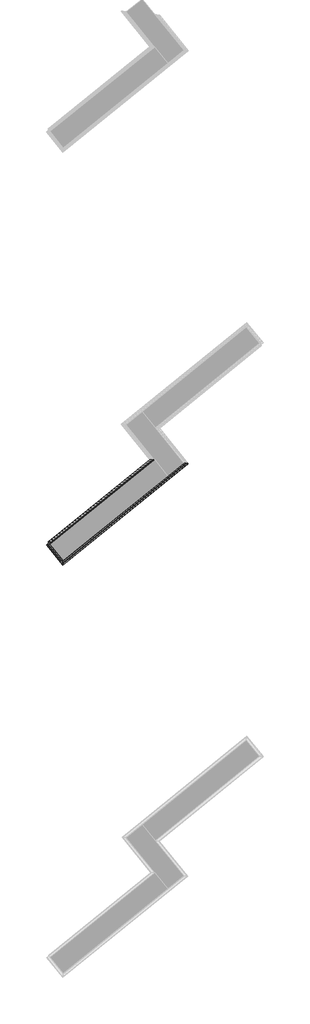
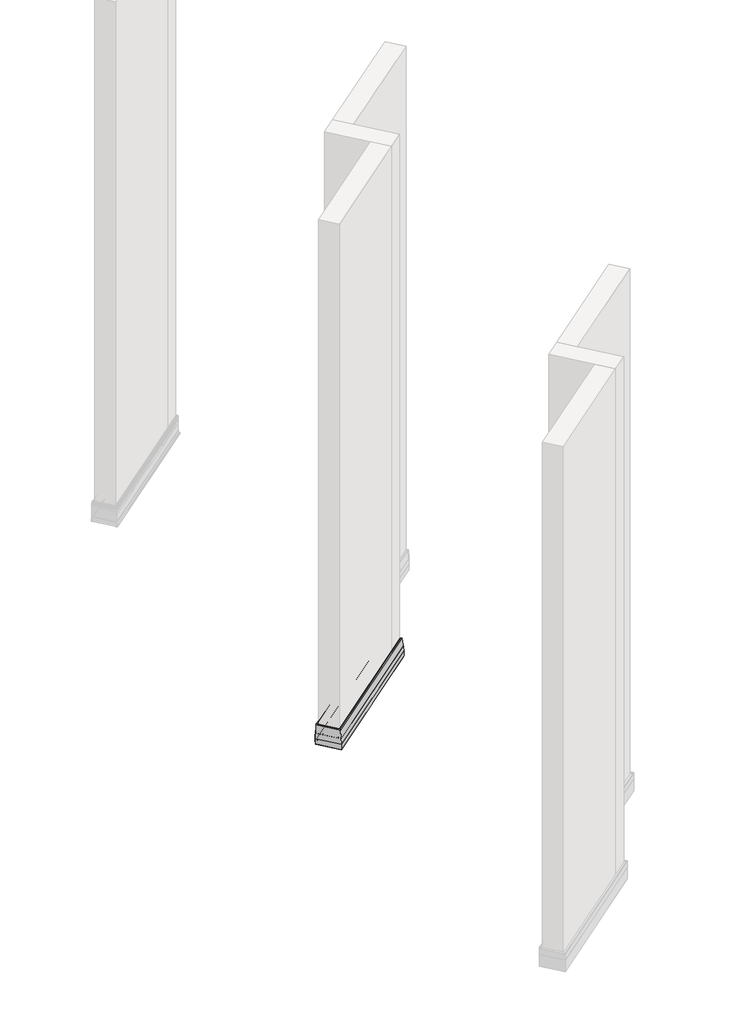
# One storey, part 14 of 21: 2 proxies.
"""IFC4 building model written with IfcOpenShell, lengths in millimetres."""

from ifc_helpers import new_model, si_unit, frame, origin, place, context, project, spatial, polyline, circle_curve, ellipse_curve, element, save
from ifc_brep_helpers import plane_surface, cylinder_surface, revolved_surface, advanced_brep

model = new_model("IFC4")

# Units and contexts
model_context = context("Model", 3, world=origin())
ifc_project = project(units=[si_unit("LENGTHUNIT", "METRE", prefix="MILLI")], contexts=[model_context])

# Site, building, storey
site = spatial("IfcSite", under=ifc_project)
building = spatial("IfcBuilding", under=site)
storey = spatial("IfcBuildingStorey", under=building, Name="Izofleks 2D View", Elevation=0.0)

# Proxies
placement = place(None, origin())
element("IfcBuildingElementProxy", 1, Name="Wall Sweeps", at=placement, inside=storey, context=model_context, shape_type="AdvancedBrep", body=[
    advanced_brep(
    [(10237.4382256, -5345.7772713, 59.6555585), (10245.436706, -5346.6179455, 59.6555585), (10236.6776445, -5345.697331, 101.9914791), (10233.4646178, -5345.3596283, 103.6588452), (10231.0336692, -5345.1041253, 103.6588452), (10231.0336692, -5345.1041253, 101.6586119), (10226.3923302, -5344.6163009, 101.6586119), (10226.3923302, -5344.6163009, 102.9586119), (10229.2052629, -5344.9119521, 102.9586119), (10229.2052629, -5344.9119521, 104.9585348), (10233.6477678, -5345.3788781, 104.9585348), (10238.5871533, -5345.8980285, 101.8554536), (10248.892447, -5346.9811585, 31.5183531), (10248.892447, -5346.9811585, 3.1913868), (10244.6763928, -5346.5380333, 3.1913868), (10244.6763928, -5346.5380333, 0.1913868), (10242.8479865, -5346.3458601, 0.1913868), (10242.8479865, -5346.3458601, 4.4913868), (10247.0899552, -5346.791709, 4.4913868), (10247.0899552, -5346.791709, 28.7657538), (10234.0080145, -5345.4167416, 28.7657538), (10233.7384472, -5345.3884089, 27.7479135), (10235.1018647, -5345.5317099, 27.7479135), (10235.7871142, -5345.6037325, 27.1399853), (10233.0387933, -5345.3148723, 18.30079), (10235.3427515, -5345.5570281, 18.30079), (10235.3488299, -5345.557667, 16.99999), (10228.316906, -5344.818582, 16.99999), (10228.316906, -5344.818582, 0.0), (10226.4885138, -5344.6264102, 0.0), (10226.4885138, -5344.6264102, 54.99999), (10228.316906, -5344.818582, 53.99999), (10228.316906, -5344.818582, 47.88979), (10232.5247381, -5345.260843, 47.88979), (10231.5749146, -5345.1610125, 48.3626585), (10230.421833, -5345.0398187, 48.3626585), (10229.7258942, -5344.9666726, 48.9497419), (10232.4134293, -5345.2491439, 59.2434073), (10233.6565501, -5345.3798012, 59.6555585), (9568.9056738, -5736.7119346, 59.6555585), (9570.9952466, -5735.0198319, 59.6555585), (9571.6821356, -5734.4636002, 59.2434073), (9573.1671388, -5733.2610683, 48.9497419), (9572.7825964, -5733.5724646, 48.3626585), (9572.1454587, -5734.0884085, 48.3626585), (9571.6206317, -5734.513405, 47.88979), (9573.9456782, -5732.6306195, 47.88979), (9573.9456782, -5732.6306195, 53.99999), (9574.9559602, -5731.8125092, 54.99999), (9574.9559602, -5731.8125092, 0.0), (9573.9456782, -5732.6306195, 0.0), (9573.9456782, -5732.6306195, 16.99999), (9570.0601738, -5735.7770389, 16.99999), (9570.0635324, -5735.7743192, 18.30079), (9571.3365894, -5734.7434179, 18.30079), (9569.8179989, -5735.9731483, 27.1399853), (9570.1966349, -5735.6665349, 27.7479135), (9570.9499942, -5735.0564766, 27.7479135), (9570.8010442, -5735.1770939, 28.7657538), (9563.5725902, -5741.0305806, 28.7657538), (9563.5725902, -5741.0305806, 4.4913868), (9565.9164989, -5739.1325207, 4.4913868), (9565.9164989, -5739.1325207, 0.1913868), (9564.9062092, -5739.9506372, 0.1913868), (9564.9062092, -5739.9506372, 3.1913868), (9562.5766195, -5741.8371017, 3.1913868), (9562.5766195, -5741.8371017, 31.5183531), (9568.2708313, -5737.2260199, 101.8554536), (9571.0000992, -5735.0159023, 104.9585348), (9573.4548148, -5733.0281129, 104.9585348), (9573.4548148, -5733.0281129, 102.9586119), (9575.0091067, -5731.7694721, 102.9586119), (9575.0091067, -5731.7694721, 101.6586119), (9572.444525, -5733.8462294, 101.6586119), (9572.444525, -5733.8462294, 103.6588452), (9571.1012992, -5734.9339522, 103.6588452), (9569.3259345, -5736.3716142, 101.9914791), (9564.4860965, -5740.2908377, 59.6555585), (9642.4781816, -5827.5664153, 59.6555585), (9641.6375074, -5835.5648957, 59.6555585), (9642.5581219, -5826.8058342, 101.9914791), (9642.8958246, -5823.5928076, 103.6588452), (9643.1513276, -5821.1618589, 103.6588452), (9643.1513276, -5821.1618589, 101.6586119), (9643.639152, -5816.5205199, 101.6586119), (9643.639152, -5816.5205199, 102.9586119), (9643.3435009, -5819.3334526, 102.9586119), (9643.3435009, -5819.3334526, 104.9585348), (9642.8765748, -5823.7759576, 104.9585348), (9642.3574244, -5828.7153431, 101.8554536), (9641.2742944, -5839.0206367, 31.5183531), (9641.2742944, -5839.0206367, 3.1913868), (9641.7174196, -5834.8045825, 3.1913868), (9641.7174196, -5834.8045825, 0.1913868), (9641.9095928, -5832.9761762, 0.1913868), (9641.9095928, -5832.9761762, 4.4913868), (9641.463744, -5837.2181449, 4.4913868), (9641.463744, -5837.2181449, 28.7657538), (9642.8387113, -5824.1362042, 28.7657538), (9642.867044, -5823.8666369, 27.7479135), (9642.723743, -5825.2300544, 27.7479135), (9642.6517204, -5825.9153039, 27.1399853), (9642.9405806, -5823.166983, 18.30079), (9642.6984248, -5825.4709412, 18.30079), (9642.6977859, -5825.4770196, 16.99999), (9643.4368709, -5818.4450957, 16.99999), (9643.4368709, -5818.4450957, 0.0), (9643.6290427, -5816.6167035, 0.0), (10148.7739176, -5407.5584493, 0.0), (9643.6290427, -5816.6167035, 54.99999), (9643.4368709, -5818.4450957, 53.99999), (9643.4368709, -5818.4450957, 47.88979), (9642.9946099, -5822.6529279, 47.88979), (9643.0944404, -5821.7031044, 48.3626585), (9643.2156342, -5820.5500227, 48.3626585), (9643.2887803, -5819.854084, 48.9497419), (9643.006309, -5822.541619, 59.2434073), (9642.8756517, -5823.7847399, 59.6555585), (9580.6970036, -5738.9021074, 0.0)],
    [
        (0, 1),
        (1, 2, ellipse_curve(frame((9771.4200218, -5296.7967844, 31.7042015), z_axis=(-0.10452846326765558, -0.9945218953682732, 0.0), x_axis=(-0.9945218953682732, 0.10452846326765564, 0.0)), 478.2640711, 338.1837679)),
        (2, 3, ellipse_curve(frame((10233.5362149, -5345.3671535, 101.3299275), z_axis=(-0.10452846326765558, -0.9945218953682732, 0.0), x_axis=(-0.9945218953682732, 0.10452846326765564, 0.0)), 3.2943737, 2.329474)),
        (3, 4),
        (4, 5),
        (5, 6),
        (6, 7),
        (7, 8),
        (8, 9),
        (9, 10),
        (10, 11, ellipse_curve(frame((10233.1567825, -5345.3272735, 101.0246073), z_axis=(0.10452846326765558, 0.9945218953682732, 0.0), x_axis=(0.9945218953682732, -0.1045284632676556, 0.0)), 5.5852753, 3.949386)),
        (11, 12, ellipse_curve(frame((9771.4200218, -5296.7967844, 31.7042015), z_axis=(0.10452846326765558, 0.9945218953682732, 0.0), x_axis=(0.9945218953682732, -0.10452846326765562, 0.0)), 480.1025487, 339.4837679)),
        (12, 13),
        (13, 14),
        (14, 15),
        (15, 16),
        (16, 17),
        (17, 18),
        (18, 19),
        (19, 20),
        (20, 21),
        (21, 22),
        (22, 23, ellipse_curve(frame((10235.1004582, -5345.5315621, 27.2479135), z_axis=(0.10452846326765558, 0.9945218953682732, 0.0), x_axis=(0.9945218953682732, -0.10452846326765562, 0.0)), 0.7071082, 0.500001)),
        (23, 24),
        (24, 25),
        (25, 26, ellipse_curve(frame((10235.1785737, -5345.5397723, 17.649995), z_axis=(0.10452846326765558, 0.9945218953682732, 0.0), x_axis=(0.9945218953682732, -0.10452846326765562, 0.0)), 0.935051, 0.6611809)),
        (26, 27),
        (27, 28),
        (28, 29),
        (29, 30),
        (30, 31, ellipse_curve(frame((10226.8389918, -5344.663247, 53.9789482), z_axis=(0.10452846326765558, 0.9945218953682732, 0.0), x_axis=(0.9945218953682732, -0.10452846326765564, 0.0)), 1.4863528, 1.0510102)),
        (31, 32),
        (32, 33),
        (33, 34),
        (34, 35),
        (35, 36, ellipse_curve(frame((10230.4183879, -5345.0394566, 48.8626585), z_axis=(0.10452846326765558, 0.9945218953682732, 0.0), x_axis=(0.9945218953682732, -0.10452846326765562, 0.0)), 0.7071153, 0.500006)),
        (36, 37),
        (37, 38, ellipse_curve(frame((10233.6790275, -5345.3821637, 58.4674875), z_axis=(0.10452846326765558, 0.9945218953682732, 0.0), x_axis=(0.9945218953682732, -0.10452846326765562, 0.0)), 1.6803381, 1.1881785)),
        (38, 0),
        (39, 40),
        (40, 41, circle_curve(frame((9570.9828266, -5735.0298894, 58.4674875), z_axis=(-0.629320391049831, 0.7771459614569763, 0.0), x_axis=(-0.7771459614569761, -0.6293203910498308, 0.0)), 1.1881785)),
        (41, 42),
        (42, 43, circle_curve(frame((9572.7845, -5733.5709231, 48.8626585), z_axis=(-0.629320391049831, 0.7771459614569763, 0.0), x_axis=(-0.0038071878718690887, -0.003082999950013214, -0.9999880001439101)), 0.500006)),
        (43, 44),
        (44, 45),
        (45, 46),
        (46, 47),
        (47, 48, circle_curve(frame((9574.7623028, -5731.9693299, 53.9789482), z_axis=(-0.629320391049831, 0.777145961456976, 0.0), x_axis=(0.18425834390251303, 0.1492094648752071, 0.9714861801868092)), 1.0510102)),
        (48, 49),
        (49, 50),
        (50, 51),
        (51, 52),
        (52, 53, circle_curve(frame((9570.1542492, -5735.7008582, 17.649995), z_axis=(-0.629320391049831, 0.7771459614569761, 0.0), x_axis=(-0.14228387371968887, -0.11521920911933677, 0.9830970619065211)), 0.6611809)),
        (53, 54),
        (54, 55),
        (55, 56, circle_curve(frame((9570.1974121, -5735.6659056, 27.2479135), z_axis=(-0.629320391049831, 0.7771459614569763, 0.0), x_axis=(-0.001554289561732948, -0.001258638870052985, 0.9999980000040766)), 0.500001)),
        (56, 57),
        (57, 58),
        (58, 59),
        (59, 60),
        (60, 61),
        (61, 62),
        (62, 63),
        (63, 64),
        (64, 65),
        (65, 66),
        (66, 67, circle_curve(frame((9826.4050191, -5528.1930762, 31.7042015), z_axis=(-0.629320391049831, 0.7771459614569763, 0.0), x_axis=(-0.7603726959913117, -0.6157376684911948, 0.20664096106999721)), 339.4837679)),
        (67, 68, circle_curve(frame((9571.2713943, -5734.7962119, 101.0246073), z_axis=(-0.6293203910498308, 0.7771459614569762, 0.0), x_axis=(-0.0686929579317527, -0.05562646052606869, 0.9960858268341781)), 3.949386)),
        (68, 69),
        (69, 70),
        (70, 71),
        (71, 72),
        (72, 73),
        (73, 74),
        (74, 75),
        (75, 76, circle_curve(frame((9571.0617381, -5734.9659882, 101.3299275), z_axis=(0.629320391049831, -0.7771459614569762, 0.0), x_axis=(-0.7451482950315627, -0.6034091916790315, 0.28399184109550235)), 2.329474)),
        (76, 77, circle_curve(frame((9826.4050191, -5528.1930762, 31.7042015), z_axis=(0.6293203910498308, -0.7771459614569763, 0.0), x_axis=(-0.7744869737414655, -0.6271671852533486, 0.08265137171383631)), 338.1837679)),
        (77, 39),
        (0, 78),
        (78, 79),
        (79, 1),
        (79, 80, ellipse_curve(frame((9691.4586685, -5361.5482115, 31.7042015), z_axis=(-0.9945218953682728, 0.10452846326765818, 0.0), x_axis=(-0.10452846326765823, -0.9945218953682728, 0.0)), 478.2640711, 338.1837679)),
        (80, 2),
        (80, 81, ellipse_curve(frame((9642.8882995, -5823.6644046, 101.3299275), z_axis=(-0.9945218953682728, 0.10452846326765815, 0.0), x_axis=(-0.10452846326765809, -0.9945218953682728, 0.0)), 3.2943737, 2.329474)),
        (81, 3),
        (81, 82),
        (82, 4),
        (82, 83),
        (83, 5),
        (83, 84),
        (84, 6),
        (84, 85),
        (85, 7),
        (85, 86),
        (86, 8),
        (86, 87),
        (87, 9),
        (87, 88),
        (88, 10),
        (88, 89, ellipse_curve(frame((9642.9281794, -5823.2849722, 101.0246073), z_axis=(0.9945218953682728, -0.10452846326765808, 0.0), x_axis=(0.10452846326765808, 0.9945218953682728, 0.0)), 5.5852753, 3.949386)),
        (89, 11),
        (89, 90, ellipse_curve(frame((9691.4586685, -5361.5482115, 31.7042015), z_axis=(0.9945218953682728, -0.10452846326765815, 0.0), x_axis=(0.10452846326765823, 0.9945218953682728, 0.0)), 480.1025487, 339.4837679)),
        (90, 12),
        (90, 91),
        (91, 13),
        (91, 92),
        (92, 14),
        (92, 93),
        (93, 15),
        (93, 94),
        (94, 16),
        (94, 95),
        (95, 17),
        (95, 96),
        (96, 18),
        (96, 97),
        (97, 19),
        (97, 98),
        (98, 20),
        (98, 99),
        (99, 21),
        (99, 100),
        (100, 22),
        (100, 101, ellipse_curve(frame((9642.7238909, -5825.228648, 27.2479135), z_axis=(0.9945218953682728, -0.10452846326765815, 0.0), x_axis=(0.10452846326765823, 0.9945218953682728, 0.0)), 0.7071082, 0.500001)),
        (101, 23),
        (101, 102),
        (102, 24),
        (102, 103),
        (103, 25),
        (103, 104, ellipse_curve(frame((9642.7156806, -5825.3067635, 17.649995), z_axis=(0.9945218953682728, -0.104528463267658, 0.0), x_axis=(0.10452846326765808, 0.9945218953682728, 0.0)), 0.935051, 0.6611809)),
        (104, 26),
        (104, 105),
        (105, 27),
        (105, 106),
        (106, 28),
        (106, 107),
        (107, 108),
        (108, 29),
        (107, 109),
        (109, 30),
        (109, 110, ellipse_curve(frame((9643.592206, -5816.9671816, 53.9789482), z_axis=(0.9945218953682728, -0.10452846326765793, 0.0), x_axis=(0.10452846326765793, 0.9945218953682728, 0.0)), 1.4863528, 1.0510102)),
        (110, 31),
        (110, 111),
        (111, 32),
        (111, 112),
        (112, 33),
        (112, 113),
        (113, 34),
        (113, 114),
        (114, 35),
        (114, 115, ellipse_curve(frame((9643.2159963, -5820.5465776, 48.8626585), z_axis=(0.9945218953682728, -0.10452846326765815, 0.0), x_axis=(0.10452846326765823, 0.9945218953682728, 0.0)), 0.7071153, 0.500006)),
        (115, 36),
        (115, 116),
        (116, 37),
        (116, 117, ellipse_curve(frame((9642.8732892, -5823.8072172, 58.4674875), z_axis=(0.9945218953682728, -0.10452846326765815, 0.0), x_axis=(0.10452846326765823, 0.9945218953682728, 0.0)), 1.6803381, 1.1881785)),
        (117, 38),
        (117, 78),
        (78, 39),
        (77, 79),
        (76, 80),
        (75, 81),
        (74, 82),
        (73, 83),
        (72, 84),
        (71, 85),
        (70, 86),
        (69, 87),
        (68, 88),
        (67, 89),
        (66, 90),
        (65, 91),
        (64, 92),
        (63, 93),
        (62, 94),
        (61, 95),
        (60, 96),
        (59, 97),
        (58, 98),
        (57, 99),
        (56, 100),
        (55, 101),
        (54, 102),
        (53, 103),
        (52, 104),
        (51, 105),
        (50, 106),
        (49, 118),
        (118, 107),
        (48, 109),
        (47, 110),
        (46, 111),
        (45, 112),
        (44, 113),
        (43, 114),
        (42, 115),
        (41, 116),
        (40, 117),
    ],
    [
        plane_surface(frame((10226.4885138, -5344.6264102, 304.8), z_axis=(0.10452846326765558, 0.9945218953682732, 0.0), x_axis=(-0.9945218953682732, 0.10452846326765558, 0.0))),
        plane_surface(frame((10118.9581332, -5291.2882355, 0.0), z_axis=(-0.6293203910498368, 0.7771459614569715, 0.0), x_axis=(0.7771459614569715, 0.6293203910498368, 0.0))),
        plane_surface(frame((10237.4382256, -5345.7772713, 59.6555585), z_axis=(0.0, 0.0, 1.0000000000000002), x_axis=(-0.7771459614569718, -0.6293203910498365, 0.0))),
        revolved_surface(polyline([(9640.738280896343, -5836.293075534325, 59.65555380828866), (10246.335933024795, -5345.889766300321, 59.65555380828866)]), (10022.8690807, -5093.1773513, 31.7042015), (-0.7771459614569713, -0.6293203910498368, 0.0)),
        revolved_surface(polyline([(9642.483584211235, -5826.866193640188, 101.9914791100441), (10236.75218219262, -5345.63697156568, 101.9914791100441)]), (10229.6419927, -5348.5206324, 101.3299275), (-0.7771459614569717, -0.6293203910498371, 0.0)),
        plane_surface(frame((10233.4646178, -5345.3596283, 103.6588452), z_axis=(0.0, 0.0, -1.0), x_axis=(-0.7771459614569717, -0.6293203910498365, 0.0))),
        plane_surface(frame((10231.0336692, -5345.1041253, 103.6588452), z_axis=(0.6293203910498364, -0.7771459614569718, 0.0), x_axis=(-0.7771459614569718, -0.6293203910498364, 0.0))),
        plane_surface(frame((10231.0336692, -5345.1041253, 101.6586119), z_axis=(0.0, 0.0, -1.0), x_axis=(-0.7771459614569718, -0.6293203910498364, 0.0))),
        plane_surface(frame((10226.3923302, -5344.6163009, 101.6586119), z_axis=(-0.6293203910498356, 0.7771459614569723, 0.0), x_axis=(-0.7771459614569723, -0.6293203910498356, 0.0))),
        plane_surface(frame((10226.3923302, -5344.6163009, 102.9586119), z_axis=(0.0, 0.0, 1.0), x_axis=(-0.7771459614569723, -0.6293203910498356, 0.0))),
        plane_surface(frame((10229.2052629, -5344.9119521, 102.9586119), z_axis=(-0.629320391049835, 0.7771459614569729, 0.0), x_axis=(-0.7771459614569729, -0.629320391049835, 0.0))),
        plane_surface(frame((10229.2052629, -5344.9119521, 104.9585348), z_axis=(0.0, 0.0, 1.0), x_axis=(-0.7771459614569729, -0.629320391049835, 0.0))),
        cylinder_surface(frame((10229.4722165, -5348.3109762, 101.0246073), z_axis=(0.7771459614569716, 0.6293203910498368, 0.0), x_axis=(0.0556264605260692, -0.06869295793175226, 0.9960858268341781)), 3.949386),
        cylinder_surface(frame((10022.8690807, -5093.1773513, 31.7042015), z_axis=(0.7771459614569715, 0.6293203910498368, 0.0), x_axis=(0.6157376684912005, -0.760372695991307, 0.20664096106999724)), 339.4837679),
        plane_surface(frame((10248.892447, -5346.9811585, 31.5183531), z_axis=(0.6293203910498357, -0.7771459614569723, 0.0), x_axis=(-0.7771459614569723, -0.6293203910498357, 0.0))),
        plane_surface(frame((10248.892447, -5346.9811585, 3.1913868), z_axis=(0.0, 0.0, -1.0), x_axis=(-0.7771459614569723, -0.6293203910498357, 0.0))),
        plane_surface(frame((10244.6763928, -5346.5380333, 3.1913868), z_axis=(0.6293203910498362, -0.777145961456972, 0.0), x_axis=(-0.777145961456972, -0.6293203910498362, 0.0))),
        plane_surface(frame((10244.6763928, -5346.5380333, 0.1913868), z_axis=(0.0, 0.0, -1.0000000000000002), x_axis=(-0.777145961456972, -0.6293203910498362, 0.0))),
        plane_surface(frame((10242.8479865, -5346.3458601, 0.1913868), z_axis=(-0.6293203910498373, 0.7771459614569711, 0.0), x_axis=(-0.7771459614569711, -0.6293203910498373, 0.0))),
        plane_surface(frame((10242.8479865, -5346.3458601, 4.4913868), z_axis=(0.0, 0.0, 1.0000000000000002), x_axis=(-0.7771459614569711, -0.6293203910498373, 0.0))),
        plane_surface(frame((10247.0899552, -5346.791709, 4.4913868), z_axis=(-0.6293203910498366, 0.7771459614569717, 0.0), x_axis=(-0.7771459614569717, -0.6293203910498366, 0.0))),
        plane_surface(frame((10247.0899552, -5346.791709, 28.7657538), z_axis=(0.0, 0.0, -1.0000000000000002), x_axis=(-0.7771459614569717, -0.6293203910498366, 0.0))),
        plane_surface(frame((10234.0080145, -5345.4167416, 28.7657538), z_axis=(0.6184513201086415, -0.763723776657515, -0.18505122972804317), x_axis=(-0.7771459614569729, -0.6293203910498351, 0.0))),
        plane_surface(frame((10233.7384472, -5345.3884089, 27.7479135), z_axis=(0.0, 0.0, 1.0000000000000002), x_axis=(-0.7771459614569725, -0.6293203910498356, 0.0))),
        cylinder_surface(frame((10230.3419101, -5349.3849584, 27.2479135), z_axis=(0.7771459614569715, 0.6293203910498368, 0.0), x_axis=(0.0012586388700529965, -0.001554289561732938, 0.9999980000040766)), 0.500001),
        plane_surface(frame((10235.7871142, -5345.6037325, 27.1399853), z_axis=(0.6144842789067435, -0.7588248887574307, -0.2158561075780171), x_axis=(-0.7771459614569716, -0.6293203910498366, 0.0))),
        plane_surface(frame((10233.0387933, -5345.3148723, 18.30079), z_axis=(0.0, 0.0, 1.0000000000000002), x_axis=(-0.7771459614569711, -0.6293203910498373, 0.0))),
        cylinder_surface(frame((10230.3768627, -5349.4281213, 17.649995), z_axis=(0.7771459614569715, 0.6293203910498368, 0.0), x_axis=(0.1152192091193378, -0.14228387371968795, 0.9830970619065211)), 0.6611809),
        plane_surface(frame((10235.3488299, -5345.557667, 16.99999), z_axis=(0.0, 0.0, -1.0000000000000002), x_axis=(-0.777145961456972, -0.6293203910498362, 0.0))),
        plane_surface(frame((10228.316906, -5344.818582, 16.99999), z_axis=(0.6293203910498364, -0.7771459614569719, 0.0), x_axis=(-0.7771459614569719, -0.6293203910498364, 0.0))),
        plane_surface(frame((10228.316906, -5344.818582, 0.0), z_axis=(0.0, 0.0, -1.0000000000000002), x_axis=(-0.7771459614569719, -0.6293203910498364, 0.0))),
        plane_surface(frame((10226.4885138, -5344.6264102, 0.0), z_axis=(-0.6293203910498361, 0.777145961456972, 0.0), x_axis=(-0.777145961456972, -0.6293203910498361, 0.0))),
        cylinder_surface(frame((10226.6453344, -5344.8200676, 53.9789482), z_axis=(0.7771459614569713, 0.6293203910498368, 0.0), x_axis=(-0.14920946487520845, 0.18425834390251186, 0.9714861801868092)), 1.0510102),
        plane_surface(frame((10228.316906, -5344.818582, 53.99999), z_axis=(0.6293203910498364, -0.7771459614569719, 0.0), x_axis=(-0.7771459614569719, -0.6293203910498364, 0.0))),
        plane_surface(frame((10228.316906, -5344.818582, 47.88979), z_axis=(0.0, 0.0, 1.0), x_axis=(-0.7771459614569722, -0.6293203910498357, 0.0))),
        plane_surface(frame((10232.5247381, -5345.260843, 47.88979), z_axis=(-0.36096334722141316, 0.44575261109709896, -0.8191520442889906), x_axis=(-0.7771459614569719, -0.6293203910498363, 0.0))),
        plane_surface(frame((10231.5749146, -5345.1610125, 48.3626585), z_axis=(0.0, 0.0, -1.0), x_axis=(-0.7771459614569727, -0.6293203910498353, 0.0))),
        cylinder_surface(frame((10228.2469276, -5346.7978705, 48.8626585), z_axis=(0.7771459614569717, 0.629320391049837, 0.0), x_axis=(0.0030829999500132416, -0.0038071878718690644, -0.9999880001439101)), 0.500006),
        plane_surface(frame((10229.7258942, -5344.9666726, 48.9497419), z_axis=(-0.6187497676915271, 0.7640923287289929, 0.1825147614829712), x_axis=(-0.7771459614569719, -0.6293203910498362, 0.0))),
        cylinder_surface(frame((10229.7058939, -5348.5995438, 58.4674875), z_axis=(0.7771459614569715, 0.6293203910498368, 0.0), x_axis=(0.6293203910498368, -0.7771459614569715, 0.0)), 1.1881785),
        plane_surface(frame((10233.6565501, -5345.3798012, 59.6555585), z_axis=(0.0, 0.0, 1.0), x_axis=(-0.7771459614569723, -0.6293203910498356, 0.0))),
        plane_surface(frame((9642.4781816, -5827.5664153, 59.6555585), z_axis=(0.0, 0.0, 1.0), x_axis=(-0.6293203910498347, 0.7771459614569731, 0.0))),
        revolved_surface(polyline([(9216.713804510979, -5310.827823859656, 59.655553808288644), (9642.36568659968, -5836.464122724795, 59.655553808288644)]), (9895.0781016, -5612.9972704, 31.7042015), (-0.6293203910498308, 0.7771459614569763, 0.0)),
        revolved_surface(polyline([(9569.325934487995, -5736.37161419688, 101.9914791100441), (9642.618481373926, -5826.880371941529, 101.9914791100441)]), (9639.7348205, -5819.7701824, 101.3299275), (-0.629320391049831, 0.7771459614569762, 0.0)),
        plane_surface(frame((9642.8958246, -5823.5928076, 103.6588452), z_axis=(0.0, 0.0, -1.0), x_axis=(-0.629320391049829, 0.7771459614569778, 0.0))),
        plane_surface(frame((9643.1513276, -5821.1618589, 103.6588452), z_axis=(-0.7771459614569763, -0.6293203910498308, 0.0), x_axis=(-0.6293203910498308, 0.7771459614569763, 0.0))),
        plane_surface(frame((9643.1513276, -5821.1618589, 101.6586119), z_axis=(0.0, 0.0, -1.0), x_axis=(-0.6293203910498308, 0.7771459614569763, 0.0))),
        plane_surface(frame((9643.639152, -5816.5205199, 101.6586119), z_axis=(0.7771459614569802, 0.629320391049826, 0.0), x_axis=(-0.629320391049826, 0.7771459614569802, 0.0))),
        plane_surface(frame((9643.639152, -5816.5205199, 102.9586119), z_axis=(0.0, 0.0, 1.0), x_axis=(-0.629320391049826, 0.7771459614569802, 0.0))),
        plane_surface(frame((9643.3435009, -5819.3334526, 102.9586119), z_axis=(0.7771459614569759, 0.6293203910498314, 0.0), x_axis=(-0.6293203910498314, 0.7771459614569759, 0.0))),
        plane_surface(frame((9643.3435009, -5819.3334526, 104.9585348), z_axis=(0.0, 0.0, 1.0), x_axis=(-0.6293203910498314, 0.7771459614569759, 0.0))),
        cylinder_surface(frame((9639.9444767, -5819.6004062, 101.0246073), z_axis=(0.6293203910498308, -0.7771459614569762, 0.0), x_axis=(-0.0686929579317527, -0.05562646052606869, 0.9960858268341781)), 3.949386),
        cylinder_surface(frame((9895.0781016, -5612.9972704, 31.7042015), z_axis=(0.629320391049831, -0.7771459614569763, 0.0), x_axis=(-0.7603726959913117, -0.6157376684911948, 0.20664096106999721)), 339.4837679),
        plane_surface(frame((9641.2742944, -5839.0206367, 31.5183531), z_axis=(-0.7771459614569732, -0.6293203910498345, 0.0), x_axis=(-0.6293203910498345, 0.7771459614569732, 0.0))),
        plane_surface(frame((9641.2742944, -5839.0206367, 3.1913868), z_axis=(0.0, 0.0, -1.0), x_axis=(-0.6293203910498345, 0.7771459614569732, 0.0))),
        plane_surface(frame((9641.7174196, -5834.8045825, 3.1913868), z_axis=(-0.7771459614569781, -0.6293203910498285, 0.0), x_axis=(-0.6293203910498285, 0.7771459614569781, 0.0))),
        plane_surface(frame((9641.7174196, -5834.8045825, 0.1913868), z_axis=(0.0, 0.0, -1.0), x_axis=(-0.6293203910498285, 0.7771459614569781, 0.0))),
        plane_surface(frame((9641.9095928, -5832.9761762, 0.1913868), z_axis=(0.7771459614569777, 0.6293203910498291, 0.0), x_axis=(-0.6293203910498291, 0.7771459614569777, 0.0))),
        plane_surface(frame((9641.9095928, -5832.9761762, 4.4913868), z_axis=(0.0, 0.0, 1.0), x_axis=(-0.6293203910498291, 0.7771459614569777, 0.0))),
        plane_surface(frame((9641.463744, -5837.2181449, 4.4913868), z_axis=(0.777145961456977, 0.6293203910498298, 0.0), x_axis=(-0.6293203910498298, 0.777145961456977, 0.0))),
        plane_surface(frame((9641.463744, -5837.2181449, 28.7657538), z_axis=(0.0, 0.0, -1.0), x_axis=(-0.6293203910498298, 0.777145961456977, 0.0))),
        plane_surface(frame((9642.8387113, -5824.1362042, 28.7657538), z_axis=(-0.7637237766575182, -0.6184513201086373, -0.18505122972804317), x_axis=(-0.629320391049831, 0.7771459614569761, 0.0))),
        plane_surface(frame((9642.867044, -5823.8666369, 27.7479135), z_axis=(0.0, 0.0, 1.0), x_axis=(-0.6293203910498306, 0.7771459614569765, 0.0))),
        cylinder_surface(frame((9638.8704946, -5820.4700998, 27.2479135), z_axis=(0.6293203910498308, -0.7771459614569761, 0.0), x_axis=(-0.001554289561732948, -0.001258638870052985, 0.9999980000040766)), 0.500001),
        plane_surface(frame((9642.6517204, -5825.9153039, 27.1399853), z_axis=(-0.7588248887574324, -0.6144842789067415, -0.21585610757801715), x_axis=(-0.6293203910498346, 0.7771459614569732, 0.0))),
        plane_surface(frame((9642.9405806, -5823.166983, 18.30079), z_axis=(0.0, 0.0, 1.0), x_axis=(-0.6293203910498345, 0.7771459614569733, 0.0))),
        cylinder_surface(frame((9638.8273317, -5820.5050524, 17.649995), z_axis=(0.629320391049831, -0.7771459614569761, 0.0), x_axis=(-0.14228387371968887, -0.11521920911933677, 0.9830970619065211)), 0.6611809),
        plane_surface(frame((9642.6977859, -5825.4770196, 16.99999), z_axis=(0.0, 0.0, -1.0), x_axis=(-0.6293203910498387, 0.7771459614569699, 0.0))),
        plane_surface(frame((9643.4368709, -5818.4450957, 16.99999), z_axis=(-0.777145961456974, -0.6293203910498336, 0.0), x_axis=(-0.6293203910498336, 0.777145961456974, 0.0))),
        plane_surface(frame((9643.4368709, -5818.4450957, 0.0), z_axis=(0.0, 0.0, -1.0), x_axis=(-0.6293203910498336, 0.777145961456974, 0.0))),
        plane_surface(frame((9643.6290427, -5816.6167035, 0.0), z_axis=(0.7771459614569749, 0.6293203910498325, 0.0), x_axis=(-0.6293203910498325, 0.7771459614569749, 0.0))),
        cylinder_surface(frame((9643.4353853, -5816.7735242, 53.9789482), z_axis=(0.6293203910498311, -0.7771459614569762, 0.0), x_axis=(0.18425834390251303, 0.1492094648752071, 0.9714861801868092)), 1.0510102),
        plane_surface(frame((9643.4368709, -5818.4450957, 53.99999), z_axis=(-0.777145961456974, -0.6293203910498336, 0.0), x_axis=(-0.6293203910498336, 0.777145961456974, 0.0))),
        plane_surface(frame((9643.4368709, -5818.4450957, 47.88979), z_axis=(0.0, 0.0, 1.0), x_axis=(-0.6293203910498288, 0.7771459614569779, 0.0))),
        plane_surface(frame((9642.9946099, -5822.6529279, 47.88979), z_axis=(0.4457526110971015, 0.3609633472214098, -0.8191520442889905), x_axis=(-0.6293203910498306, 0.7771459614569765, 0.0))),
        plane_surface(frame((9643.0944404, -5821.7031044, 48.3626585), z_axis=(0.0, 0.0, -1.0), x_axis=(-0.6293203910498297, 0.7771459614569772, 0.0))),
        cylinder_surface(frame((9641.4575824, -5818.3751173, 48.8626585), z_axis=(0.629320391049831, -0.7771459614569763, 0.0), x_axis=(-0.0038071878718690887, -0.003082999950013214, -0.9999880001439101)), 0.500006),
        plane_surface(frame((9643.2887803, -5819.854084, 48.9497419), z_axis=(0.7640923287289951, 0.6187497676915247, 0.18251476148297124), x_axis=(-0.6293203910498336, 0.777145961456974, 0.0))),
        cylinder_surface(frame((9639.6559091, -5819.8340836, 58.4674875), z_axis=(0.6293203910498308, -0.7771459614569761, 0.0), x_axis=(-0.7771459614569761, -0.6293203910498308, 0.0)), 1.1881785),
        plane_surface(frame((9642.8756517, -5823.7847399, 59.6555585), z_axis=(0.0, 0.0, 1.0), x_axis=(-0.6293203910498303, 0.7771459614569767, 0.0))),
    ],
    [
        (0, [[1, 2, 3, 4, 5, 6, 7, 8, 9, 10, 11, 12, 13, 14, 15, 16, 17, 18, 19, 20, 21, 22, 23, 24, 25, 26, 27, 28, 29, 30, 31, 32, 33, 34, 35, 36, 37, 38, 39]]),
        (1, [[40, 41, 42, 43, 44, 45, 46, 47, 48, 49, 50, 51, 52, 53, 54, 55, 56, 57, 58, 59, 60, 61, 62, 63, 64, 65, 66, 67, 68, 69, 70, 71, 72, 73, 74, 75, 76, 77, 78]]),
        (2, [[-1, 79, 80, 81]]),
        (3, [[-2, -81, 82, 83]]),
        (4, [[-3, -83, 84, 85]]),
        (5, [[-4, -85, 86, 87]]),
        (6, [[-5, -87, 88, 89]]),
        (7, [[-6, -89, 90, 91]]),
        (8, [[-7, -91, 92, 93]]),
        (9, [[-8, -93, 94, 95]]),
        (10, [[-9, -95, 96, 97]]),
        (11, [[-10, -97, 98, 99]]),
        (12, [[-11, -99, 100, 101]]),
        (13, [[-12, -101, 102, 103]]),
        (14, [[-13, -103, 104, 105]]),
        (15, [[-14, -105, 106, 107]]),
        (16, [[-15, -107, 108, 109]]),
        (17, [[-16, -109, 110, 111]]),
        (18, [[-17, -111, 112, 113]]),
        (19, [[-18, -113, 114, 115]]),
        (20, [[-19, -115, 116, 117]]),
        (21, [[-20, -117, 118, 119]]),
        (22, [[-21, -119, 120, 121]]),
        (23, [[-22, -121, 122, 123]]),
        (24, [[-23, -123, 124, 125]]),
        (25, [[-24, -125, 126, 127]]),
        (26, [[-25, -127, 128, 129]]),
        (27, [[-26, -129, 130, 131]]),
        (28, [[-27, -131, 132, 133]]),
        (29, [[-28, -133, 134, 135]]),
        (30, [[-29, -135, 136, 137, 138]]),
        (31, [[-30, -138, -137, 139, 140]]),
        (32, [[-31, -140, 141, 142]]),
        (33, [[-32, -142, 143, 144]]),
        (34, [[-33, -144, 145, 146]]),
        (35, [[-34, -146, 147, 148]]),
        (36, [[-35, -148, 149, 150]]),
        (37, [[-36, -150, 151, 152]]),
        (38, [[-37, -152, 153, 154]]),
        (39, [[-38, -154, 155, 156]]),
        (40, [[-39, -156, 157, -79]]),
        (41, [[-80, 158, -78, 159]]),
        (42, [[-82, -159, -77, 160]]),
        (43, [[-84, -160, -76, 161]]),
        (44, [[-86, -161, -75, 162]]),
        (45, [[-88, -162, -74, 163]]),
        (46, [[-90, -163, -73, 164]]),
        (47, [[-92, -164, -72, 165]]),
        (48, [[-94, -165, -71, 166]]),
        (49, [[-96, -166, -70, 167]]),
        (50, [[-98, -167, -69, 168]]),
        (51, [[-100, -168, -68, 169]]),
        (52, [[-102, -169, -67, 170]]),
        (53, [[-104, -170, -66, 171]]),
        (54, [[-106, -171, -65, 172]]),
        (55, [[-108, -172, -64, 173]]),
        (56, [[-110, -173, -63, 174]]),
        (57, [[-112, -174, -62, 175]]),
        (58, [[-114, -175, -61, 176]]),
        (59, [[-116, -176, -60, 177]]),
        (60, [[-118, -177, -59, 178]]),
        (61, [[-120, -178, -58, 179]]),
        (62, [[-122, -179, -57, 180]]),
        (63, [[-124, -180, -56, 181]]),
        (64, [[-126, -181, -55, 182]]),
        (65, [[-128, -182, -54, 183]]),
        (66, [[-130, -183, -53, 184]]),
        (67, [[-132, -184, -52, 185]]),
        (68, [[-134, -185, -51, 186]]),
        (69, [[-136, -186, -50, 187, 188]]),
        (70, [[-139, -188, -187, -49, 189]]),
        (71, [[-141, -189, -48, 190]]),
        (72, [[-143, -190, -47, 191]]),
        (73, [[-145, -191, -46, 192]]),
        (74, [[-147, -192, -45, 193]]),
        (75, [[-149, -193, -44, 194]]),
        (76, [[-151, -194, -43, 195]]),
        (77, [[-153, -195, -42, 196]]),
        (78, [[-155, -196, -41, 197]]),
        (79, [[-157, -197, -40, -158]]),
    ],
),
])
element("IfcBuildingElementProxy", 2, Name="Wall Sweeps", at=placement, inside=storey, context=model_context, shape_type="AdvancedBrep", body=[
    advanced_brep(
    [(10074.8921667, -5328.6929921, 59.6555585), (10078.6738422, -5329.0904622, 59.6555585), (10079.916963, -5329.2211195, 59.2434073), (10082.6044981, -5329.5035908, 48.9497419), (10081.9085593, -5329.4304447, 48.3626585), (10080.7554777, -5329.3092509, 48.3626585), (10079.8056542, -5329.2094204, 47.88979), (10084.0134863, -5329.6516814, 47.88979), (10084.0134863, -5329.6516814, 53.99999), (10085.8418785, -5329.8438532, 54.99999), (10085.8418785, -5329.8438532, 0.0), (10084.0134863, -5329.6516814, 0.0), (10084.0134863, -5329.6516814, 16.99999), (10076.9815625, -5328.9125964, 16.99999), (10076.9876408, -5328.9132353, 18.30079), (10079.291599, -5329.1553911, 18.30079), (10076.5432781, -5328.8665309, 27.1399853), (10077.2285276, -5328.9385535, 27.7479135), (10078.5919451, -5329.0818545, 27.7479135), (10078.3223778, -5329.0535218, 28.7657538), (10065.2404372, -5327.6785544, 28.7657538), (10065.2404372, -5327.6785544, 4.4913868), (10069.4824058, -5328.1244033, 4.4913868), (10069.4824058, -5328.1244033, 0.1913868), (10067.6539995, -5327.9322301, 0.1913868), (10067.6539995, -5327.9322301, 3.1913868), (10063.4379453, -5327.4891049, 3.1913868), (10063.4379453, -5327.4891049, 31.5183531), (10073.743239, -5328.5722349, 101.8554536), (10078.6826245, -5329.0913853, 104.9585348), (10083.1251294, -5329.5583113, 104.9585348), (10083.1251294, -5329.5583113, 102.9586119), (10085.9380621, -5329.8539625, 102.9586119), (10085.9380621, -5329.8539625, 101.6586119), (10081.2967232, -5329.3661381, 101.6586119), (10081.2967232, -5329.3661381, 103.6588452), (10078.8657745, -5329.1106351, 103.6588452), (10075.6527478, -5328.7729324, 101.9914791), (10066.8936863, -5327.8523179, 59.6555585), (9575.7975782, -5732.8518209, 59.6555585), (9572.2186751, -5728.4322436, 59.6555585), (9576.1378986, -5733.2720816, 101.9914791), (9577.5755606, -5735.0474463, 103.6588452), (9578.6632834, -5736.3906721, 103.6588452), (9578.6632834, -5736.3906721, 101.6586119), (9580.7400407, -5738.9552538, 101.6586119), (9580.7400407, -5738.9552538, 102.9586119), (9579.4813999, -5737.4009619, 102.9586119), (9579.4813999, -5737.4009619, 104.9585348), (9577.4936105, -5734.9462464, 104.9585348), (9575.2834929, -5732.2169785, 101.8554536), (9570.6724111, -5726.5227666, 31.5183531), (9570.6724111, -5726.5227666, 3.1913868), (9572.5588756, -5728.8523563, 3.1913868), (9572.5588756, -5728.8523563, 0.1913868), (9573.3769922, -5729.8626461, 0.1913868), (9573.3769922, -5729.8626461, 4.4913868), (9571.4789323, -5727.5187373, 4.4913868), (9571.4789323, -5727.5187373, 28.7657538), (9577.3324189, -5734.7471913, 28.7657538), (9577.4530362, -5734.8961413, 27.7479135), (9576.842978, -5734.1427821, 27.7479135), (9576.5363645, -5733.764146, 27.1399853), (9577.7660949, -5735.2827366, 18.30079), (9576.7351937, -5734.0096796, 18.30079), (9576.7324739, -5734.006321, 16.99999), (9579.8788934, -5737.8918254, 16.99999), (9579.8788934, -5737.8918254, 0.0), (9580.6970036, -5738.9021074, 0.0), (9580.6970036, -5738.9021074, 54.99999), (9579.8788934, -5737.8918254, 53.99999), (9579.8788934, -5737.8918254, 47.88979), (9577.9961078, -5735.5667788, 47.88979), (9578.4211043, -5736.0916058, 48.3626585), (9578.9370482, -5736.7287435, 48.3626585), (9579.2484446, -5737.1132859, 48.9497419), (9578.0459127, -5735.6282827, 59.2434073), (9577.4896809, -5734.9413937, 59.6555585)],
    [
        (0, 1),
        (1, 2, ellipse_curve(frame((10078.6513648, -5329.0880997, 58.4674875), z_axis=(0.10452846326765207, 0.9945218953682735, 0.0), x_axis=(0.9945218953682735, -0.10452846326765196, 0.0)), 1.6803381, 1.1881785)),
        (2, 3),
        (3, 4, ellipse_curve(frame((10081.9120045, -5329.4308068, 48.8626585), z_axis=(0.10452846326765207, 0.9945218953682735, 0.0), x_axis=(0.9945218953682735, -0.10452846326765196, 0.0)), 0.7071153, 0.500006)),
        (4, 5),
        (5, 6),
        (6, 7),
        (7, 8),
        (8, 9, ellipse_curve(frame((10085.4914005, -5329.8070165, 53.9789482), z_axis=(0.10452846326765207, 0.9945218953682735, 0.0), x_axis=(0.9945218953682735, -0.10452846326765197, 0.0)), 1.4863528, 1.0510102)),
        (9, 10),
        (10, 11),
        (11, 12),
        (12, 13),
        (13, 14, ellipse_curve(frame((10077.1518186, -5328.9304911, 17.649995), z_axis=(0.10452846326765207, 0.9945218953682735, 0.0), x_axis=(0.9945218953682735, -0.10452846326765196, 0.0)), 0.935051, 0.6611809)),
        (14, 15),
        (15, 16),
        (16, 17, ellipse_curve(frame((10077.2299341, -5328.9387013, 27.2479135), z_axis=(0.10452846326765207, 0.9945218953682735, 0.0), x_axis=(0.9945218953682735, -0.10452846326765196, 0.0)), 0.7071082, 0.500001)),
        (17, 18),
        (18, 19),
        (19, 20),
        (20, 21),
        (21, 22),
        (22, 23),
        (23, 24),
        (24, 25),
        (25, 26),
        (26, 27),
        (27, 28, ellipse_curve(frame((10540.9103705, -5377.673479, 31.7042015), z_axis=(0.10452846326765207, 0.9945218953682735, 0.0), x_axis=(0.9945218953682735, -0.10452846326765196, 0.0)), 480.1025487, 339.4837679)),
        (28, 29, ellipse_curve(frame((10079.1736099, -5329.1429899, 101.0246073), z_axis=(0.10452846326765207, 0.9945218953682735, 0.0), x_axis=(0.9945218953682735, -0.1045284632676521, 0.0)), 5.5852753, 3.949386)),
        (29, 30),
        (30, 31),
        (31, 32),
        (32, 33),
        (33, 34),
        (34, 35),
        (35, 36),
        (36, 37, ellipse_curve(frame((10078.7941774, -5329.1031099, 101.3299275), z_axis=(-0.10452846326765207, -0.9945218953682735, 0.0), x_axis=(-0.9945218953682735, 0.10452846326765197, 0.0)), 3.2943737, 2.329474)),
        (37, 38, ellipse_curve(frame((10540.9103705, -5377.673479, 31.7042015), z_axis=(-0.10452846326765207, -0.9945218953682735, 0.0), x_axis=(-0.9945218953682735, 0.10452846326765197, 0.0)), 478.2640711, 338.1837679)),
        (38, 0),
        (39, 40),
        (40, 41, circle_curve(frame((9784.3164367, -5990.3511663, 31.7042015), z_axis=(0.7771459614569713, 0.6293203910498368, 0.0), x_axis=(-0.6271671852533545, 0.7744869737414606, 0.08265137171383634)), 338.1837679)),
        (41, 42, circle_curve(frame((9577.5435246, -5735.0078852, 101.3299275), z_axis=(0.7771459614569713, 0.6293203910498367, 0.0), x_axis=(-0.6034091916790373, 0.7451482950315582, 0.28399184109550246)), 2.329474)),
        (42, 43),
        (43, 44),
        (44, 45),
        (45, 46),
        (46, 47),
        (47, 48),
        (48, 49),
        (49, 50, circle_curve(frame((9577.7133009, -5735.2175414, 101.0246073), z_axis=(-0.7771459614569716, -0.6293203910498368, 0.0), x_axis=(-0.0556264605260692, 0.06869295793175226, 0.9960858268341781)), 3.949386)),
        (50, 51, circle_curve(frame((9784.3164367, -5990.3511663, 31.7042015), z_axis=(-0.7771459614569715, -0.6293203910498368, 0.0), x_axis=(-0.6157376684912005, 0.760372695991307, 0.20664096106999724)), 339.4837679)),
        (51, 52),
        (52, 53),
        (53, 54),
        (54, 55),
        (55, 56),
        (56, 57),
        (57, 58),
        (58, 59),
        (59, 60),
        (60, 61),
        (61, 62, circle_curve(frame((9576.8436073, -5734.1435592, 27.2479135), z_axis=(-0.7771459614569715, -0.6293203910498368, 0.0), x_axis=(-0.0012586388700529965, 0.001554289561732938, 0.9999980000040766)), 0.500001)),
        (62, 63),
        (63, 64),
        (64, 65, circle_curve(frame((9576.8086547, -5734.1003963, 17.649995), z_axis=(-0.7771459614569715, -0.6293203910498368, 0.0), x_axis=(-0.1152192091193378, 0.14228387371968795, 0.9830970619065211)), 0.6611809)),
        (65, 66),
        (66, 67),
        (67, 68),
        (68, 69),
        (69, 70, circle_curve(frame((9580.5401829, -5738.70845, 53.9789482), z_axis=(-0.7771459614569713, -0.6293203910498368, 0.0), x_axis=(0.14920946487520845, -0.18425834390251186, 0.9714861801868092)), 1.0510102)),
        (70, 71),
        (71, 72),
        (72, 73),
        (73, 74),
        (74, 75, circle_curve(frame((9578.9385898, -5736.7306471, 48.8626585), z_axis=(-0.7771459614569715, -0.6293203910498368, 0.0), x_axis=(-0.0030829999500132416, 0.0038071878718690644, -0.9999880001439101)), 0.500006)),
        (75, 76),
        (76, 77, circle_curve(frame((9577.4796234, -5734.9289738, 58.4674875), z_axis=(-0.7771459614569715, -0.6293203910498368, 0.0), x_axis=(-0.6293203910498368, 0.7771459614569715, 0.0)), 1.1881785)),
        (77, 39),
        (0, 39),
        (77, 1),
        (76, 2),
        (75, 3),
        (74, 4),
        (73, 5),
        (72, 6),
        (71, 7),
        (70, 8),
        (69, 9),
        (68, 10),
        (67, 11),
        (66, 12),
        (65, 13),
        (64, 14),
        (63, 15),
        (62, 16),
        (61, 17),
        (60, 18),
        (59, 19),
        (58, 20),
        (57, 21),
        (56, 22),
        (55, 23),
        (54, 24),
        (53, 25),
        (52, 26),
        (51, 27),
        (50, 28),
        (49, 29),
        (48, 30),
        (47, 31),
        (46, 32),
        (45, 33),
        (44, 34),
        (43, 35),
        (42, 36),
        (41, 37),
        (40, 38),
    ],
    [
        plane_surface(frame((10085.8418785, -5329.8438532, 304.8), z_axis=(0.10452846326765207, 0.9945218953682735, 0.0), x_axis=(-0.9945218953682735, 0.10452846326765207, 0.0))),
        plane_surface(frame((9580.6970036, -5738.9021074, -105.0818947), z_axis=(-0.7771459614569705, -0.6293203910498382, 0.0), x_axis=(0.6293203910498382, -0.7771459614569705, 0.0))),
        plane_surface(frame((10074.8921667, -5328.6929921, 59.6555585), z_axis=(0.0, 0.0, 1.0), x_axis=(-0.7771459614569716, -0.6293203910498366, 0.0))),
        cylinder_surface(frame((10082.6244984, -5325.8707196, 58.4674875), z_axis=(0.7771459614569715, 0.6293203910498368, 0.0), x_axis=(-0.6293203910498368, 0.7771459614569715, 0.0)), 1.1881785),
        plane_surface(frame((10079.916963, -5329.2211195, 59.2434073), z_axis=(0.6187497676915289, -0.7640923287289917, 0.18251476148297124), x_axis=(-0.7771459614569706, -0.629320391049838, 0.0))),
        cylinder_surface(frame((10084.0834647, -5327.6723929, 48.8626585), z_axis=(0.7771459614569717, 0.629320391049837, 0.0), x_axis=(-0.0030829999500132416, 0.0038071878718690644, -0.9999880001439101)), 0.500006),
        plane_surface(frame((10081.9085593, -5329.4304447, 48.3626585), z_axis=(0.0, 0.0, -1.0000000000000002), x_axis=(-0.7771459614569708, -0.6293203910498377, 0.0))),
        plane_surface(frame((10080.7554777, -5329.3092509, 48.3626585), z_axis=(0.36096334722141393, -0.4457526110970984, -0.8191520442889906), x_axis=(-0.7771459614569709, -0.6293203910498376, 0.0))),
        plane_surface(frame((10079.8056542, -5329.2094204, 47.88979), z_axis=(0.0, 0.0, 1.0000000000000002), x_axis=(-0.7771459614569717, -0.6293203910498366, 0.0))),
        plane_surface(frame((10084.0134863, -5329.6516814, 47.88979), z_axis=(-0.6293203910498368, 0.7771459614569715, 0.0), x_axis=(-0.7771459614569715, -0.6293203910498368, 0.0))),
        cylinder_surface(frame((10085.6850579, -5329.6501958, 53.9789482), z_axis=(0.7771459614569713, 0.6293203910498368, 0.0), x_axis=(0.14920946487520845, -0.18425834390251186, 0.9714861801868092)), 1.0510102),
        plane_surface(frame((10085.8418785, -5329.8438532, 54.99999), z_axis=(0.629320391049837, -0.7771459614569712, 0.0), x_axis=(-0.7771459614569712, -0.629320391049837, 0.0))),
        plane_surface(frame((10085.8418785, -5329.8438532, 0.0), z_axis=(0.0, 0.0, -1.0), x_axis=(-0.7771459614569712, -0.629320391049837, 0.0))),
        plane_surface(frame((10084.0134863, -5329.6516814, 0.0), z_axis=(-0.6293203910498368, 0.7771459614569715, 0.0), x_axis=(-0.7771459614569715, -0.6293203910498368, 0.0))),
        plane_surface(frame((10084.0134863, -5329.6516814, 16.99999), z_axis=(0.0, 0.0, -1.0), x_axis=(-0.7771459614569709, -0.6293203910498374, 0.0))),
        cylinder_surface(frame((10081.9535296, -5325.0421421, 17.649995), z_axis=(0.7771459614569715, 0.6293203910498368, 0.0), x_axis=(-0.1152192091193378, 0.14228387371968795, 0.9830970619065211)), 0.6611809),
        plane_surface(frame((10076.9876408, -5328.9132353, 18.30079), z_axis=(0.0, 0.0, 1.0), x_axis=(-0.7771459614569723, -0.6293203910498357, 0.0))),
        plane_surface(frame((10079.291599, -5329.1553911, 18.30079), z_axis=(-0.6144842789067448, 0.7588248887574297, -0.21585610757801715), x_axis=(-0.7771459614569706, -0.629320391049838, 0.0))),
        cylinder_surface(frame((10081.9884822, -5325.085305, 27.2479135), z_axis=(0.7771459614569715, 0.6293203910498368, 0.0), x_axis=(-0.0012586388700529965, 0.001554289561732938, 0.9999980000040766)), 0.500001),
        plane_surface(frame((10077.2285276, -5328.9385535, 27.7479135), z_axis=(0.0, 0.0, 1.0), x_axis=(-0.7771459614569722, -0.6293203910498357, 0.0))),
        plane_surface(frame((10078.5919451, -5329.0818545, 27.7479135), z_axis=(-0.6184513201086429, 0.7637237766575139, -0.1850512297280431), x_axis=(-0.7771459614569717, -0.6293203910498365, 0.0))),
        plane_surface(frame((10078.3223778, -5329.0535218, 28.7657538), z_axis=(0.0, 0.0, -1.0000000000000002), x_axis=(-0.777145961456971, -0.6293203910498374, 0.0))),
        plane_surface(frame((10065.2404372, -5327.6785544, 28.7657538), z_axis=(0.6293203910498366, -0.7771459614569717, 0.0), x_axis=(-0.7771459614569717, -0.6293203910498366, 0.0))),
        plane_surface(frame((10065.2404372, -5327.6785544, 4.4913868), z_axis=(0.0, 0.0, 1.0000000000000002), x_axis=(-0.7771459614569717, -0.6293203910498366, 0.0))),
        plane_surface(frame((10069.4824058, -5328.1244033, 4.4913868), z_axis=(0.6293203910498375, -0.7771459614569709, 0.0), x_axis=(-0.7771459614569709, -0.6293203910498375, 0.0))),
        plane_surface(frame((10069.4824058, -5328.1244033, 0.1913868), z_axis=(0.0, 0.0, -1.0), x_axis=(-0.7771459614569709, -0.6293203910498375, 0.0))),
        plane_surface(frame((10067.6539995, -5327.9322301, 0.1913868), z_axis=(-0.6293203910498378, 0.7771459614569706, 0.0), x_axis=(-0.7771459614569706, -0.6293203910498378, 0.0))),
        plane_surface(frame((10067.6539995, -5327.9322301, 3.1913868), z_axis=(0.0, 0.0, -1.0000000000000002), x_axis=(-0.7771459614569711, -0.6293203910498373, 0.0))),
        plane_surface(frame((10063.4379453, -5327.4891049, 3.1913868), z_axis=(-0.6293203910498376, 0.7771459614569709, 0.0), x_axis=(-0.7771459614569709, -0.6293203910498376, 0.0))),
        cylinder_surface(frame((10289.4613116, -5581.2929121, 31.7042015), z_axis=(0.7771459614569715, 0.6293203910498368, 0.0), x_axis=(-0.6157376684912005, 0.760372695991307, 0.20664096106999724)), 339.4837679),
        cylinder_surface(frame((10082.8581758, -5326.1592872, 101.0246073), z_axis=(0.7771459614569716, 0.6293203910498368, 0.0), x_axis=(-0.0556264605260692, 0.06869295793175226, 0.9960858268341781)), 3.949386),
        plane_surface(frame((10078.6826245, -5329.0913853, 104.9585348), z_axis=(0.0, 0.0, 1.0), x_axis=(-0.7771459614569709, -0.6293203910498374, 0.0))),
        plane_surface(frame((10083.1251294, -5329.5583113, 104.9585348), z_axis=(0.6293203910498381, -0.7771459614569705, 0.0), x_axis=(-0.7771459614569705, -0.6293203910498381, 0.0))),
        plane_surface(frame((10083.1251294, -5329.5583113, 102.9586119), z_axis=(0.0, 0.0, 1.0), x_axis=(-0.7771459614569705, -0.6293203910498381, 0.0))),
        plane_surface(frame((10085.9380621, -5329.8539625, 102.9586119), z_axis=(0.6293203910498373, -0.7771459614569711, 0.0), x_axis=(-0.7771459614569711, -0.6293203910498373, 0.0))),
        plane_surface(frame((10085.9380621, -5329.8539625, 101.6586119), z_axis=(0.0, 0.0, -1.0), x_axis=(-0.7771459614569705, -0.629320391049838, 0.0))),
        plane_surface(frame((10081.2967232, -5329.3661381, 101.6586119), z_axis=(-0.6293203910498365, 0.7771459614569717, 0.0), x_axis=(-0.7771459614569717, -0.6293203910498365, 0.0))),
        plane_surface(frame((10081.2967232, -5329.3661381, 103.6588452), z_axis=(0.0, 0.0, -1.0), x_axis=(-0.7771459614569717, -0.6293203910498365, 0.0))),
        revolved_surface(polyline([(9576.13789858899, -5733.272081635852, 101.9914791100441), (10079.198892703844, -5325.901320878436, 101.9914791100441)]), (10082.6883996, -5325.949631, 101.3299275), (-0.7771459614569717, -0.6293203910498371, 0.0)),
        revolved_surface(polyline([(9572.21867483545, -5728.432243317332, 59.65555380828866), (10591.63075814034, -4902.928615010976, 59.65555380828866)]), (10289.4613116, -5581.2929121, 31.7042015), (-0.7771459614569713, -0.6293203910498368, 0.0)),
        plane_surface(frame((10066.8936863, -5327.8523179, 59.6555585), z_axis=(0.0, 0.0, 1.0), x_axis=(-0.7771459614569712, -0.629320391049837, 0.0))),
    ],
    [
        (0, [[1, 2, 3, 4, 5, 6, 7, 8, 9, 10, 11, 12, 13, 14, 15, 16, 17, 18, 19, 20, 21, 22, 23, 24, 25, 26, 27, 28, 29, 30, 31, 32, 33, 34, 35, 36, 37, 38, 39]]),
        (1, [[40, 41, 42, 43, 44, 45, 46, 47, 48, 49, 50, 51, 52, 53, 54, 55, 56, 57, 58, 59, 60, 61, 62, 63, 64, 65, 66, 67, 68, 69, 70, 71, 72, 73, 74, 75, 76, 77, 78]]),
        (2, [[-1, 79, -78, 80]]),
        (3, [[-2, -80, -77, 81]]),
        (4, [[-3, -81, -76, 82]]),
        (5, [[-4, -82, -75, 83]]),
        (6, [[-5, -83, -74, 84]]),
        (7, [[-6, -84, -73, 85]]),
        (8, [[-7, -85, -72, 86]]),
        (9, [[-8, -86, -71, 87]]),
        (10, [[-9, -87, -70, 88]]),
        (11, [[-10, -88, -69, 89]]),
        (12, [[-11, -89, -68, 90]]),
        (13, [[-12, -90, -67, 91]]),
        (14, [[-13, -91, -66, 92]]),
        (15, [[-14, -92, -65, 93]]),
        (16, [[-15, -93, -64, 94]]),
        (17, [[-16, -94, -63, 95]]),
        (18, [[-17, -95, -62, 96]]),
        (19, [[-18, -96, -61, 97]]),
        (20, [[-19, -97, -60, 98]]),
        (21, [[-20, -98, -59, 99]]),
        (22, [[-21, -99, -58, 100]]),
        (23, [[-22, -100, -57, 101]]),
        (24, [[-23, -101, -56, 102]]),
        (25, [[-24, -102, -55, 103]]),
        (26, [[-25, -103, -54, 104]]),
        (27, [[-26, -104, -53, 105]]),
        (28, [[-27, -105, -52, 106]]),
        (29, [[-28, -106, -51, 107]]),
        (30, [[-29, -107, -50, 108]]),
        (31, [[-30, -108, -49, 109]]),
        (32, [[-31, -109, -48, 110]]),
        (33, [[-32, -110, -47, 111]]),
        (34, [[-33, -111, -46, 112]]),
        (35, [[-34, -112, -45, 113]]),
        (36, [[-35, -113, -44, 114]]),
        (37, [[-36, -114, -43, 115]]),
        (38, [[-37, -115, -42, 116]]),
        (39, [[-38, -116, -41, 117]]),
        (40, [[-39, -117, -40, -79]]),
    ],
),
])

save(model, "model.ifc")
